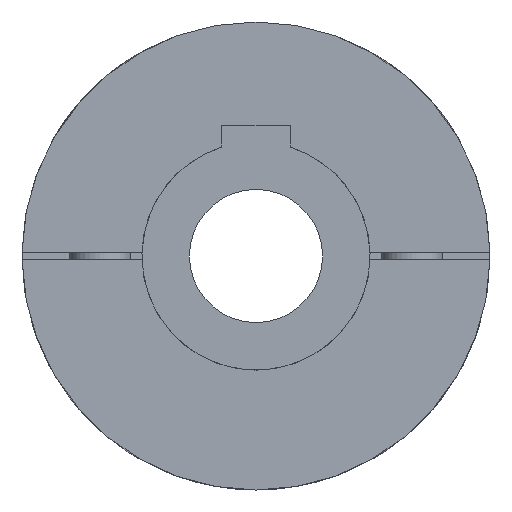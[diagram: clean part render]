
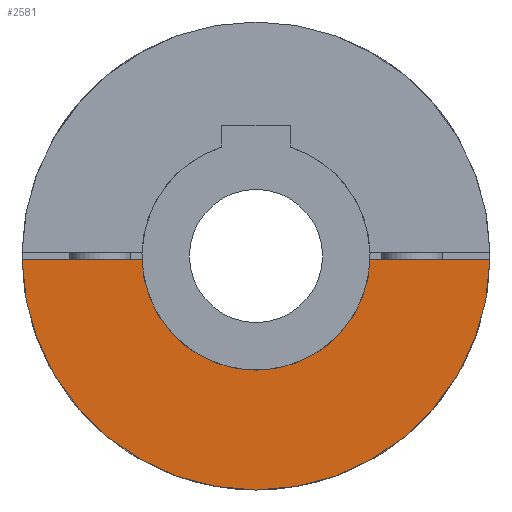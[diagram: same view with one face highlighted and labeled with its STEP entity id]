
A CAD part, left-side view. The second image highlights one B-rep face of the part: STEP entity #2581.
In plain terms, the highlighted planar face has unit normal (-1, 0, 0).
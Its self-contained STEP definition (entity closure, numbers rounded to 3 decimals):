
#142=PLANE('',#2896);
#280=LINE('',#4517,#448);
#281=LINE('',#4520,#449);
#448=VECTOR('',#3550,44.02);
#449=VECTOR('',#3553,44.02);
#665=FACE_OUTER_BOUND('',#865,.T.);
#865=EDGE_LOOP('',(#2132,#2133,#2134,#2135));
#1043=CIRCLE('',#2768,30.);
#1100=CIRCLE('',#2897,61.5);
#1207=VERTEX_POINT('',#4049);
#1208=VERTEX_POINT('',#4050);
#1302=VERTEX_POINT('',#4516);
#1303=VERTEX_POINT('',#4518);
#1465=EDGE_CURVE('',#1207,#1208,#1043,.T.);
#1605=EDGE_CURVE('',#1302,#1208,#280,.T.);
#1606=EDGE_CURVE('',#1302,#1303,#1100,.T.);
#1607=EDGE_CURVE('',#1207,#1303,#281,.T.);
#2132=ORIENTED_EDGE('',*,*,#1465,.T.);
#2133=ORIENTED_EDGE('',*,*,#1605,.F.);
#2134=ORIENTED_EDGE('',*,*,#1606,.T.);
#2135=ORIENTED_EDGE('',*,*,#1607,.F.);
#2581=ADVANCED_FACE('',(#665),#142,.F.);
#2768=AXIS2_PLACEMENT_3D('',#4051,#3215,#3216);
#2896=AXIS2_PLACEMENT_3D('',#4515,#3548,#3549);
#2897=AXIS2_PLACEMENT_3D('',#4519,#3551,#3552);
#3215=DIRECTION('center_axis',(1.,0.,0.));
#3216=DIRECTION('ref_axis',(0.,0.,1.));
#3548=DIRECTION('center_axis',(1.,0.,0.));
#3549=DIRECTION('ref_axis',(0.,0.,-1.));
#3550=DIRECTION('',(0.,-1.,0.));
#3551=DIRECTION('center_axis',(-1.,0.,0.));
#3552=DIRECTION('ref_axis',(0.,1.,-0.016));
#3553=DIRECTION('',(0.,-1.,0.));
#4049=CARTESIAN_POINT('',(0.,-29.983,-1.));
#4050=CARTESIAN_POINT('',(0.,29.983,-1.));
#4051=CARTESIAN_POINT('Origin',(0.,0.,0.));
#4515=CARTESIAN_POINT('Origin',(0.,0.,0.));
#4516=CARTESIAN_POINT('',(0.,61.492,-1.));
#4517=CARTESIAN_POINT('',(0.,61.492,-1.));
#4518=CARTESIAN_POINT('',(0.,-61.492,-1.));
#4519=CARTESIAN_POINT('Origin',(0.,0.,0.));
#4520=CARTESIAN_POINT('',(0.,-17.471,-1.));
